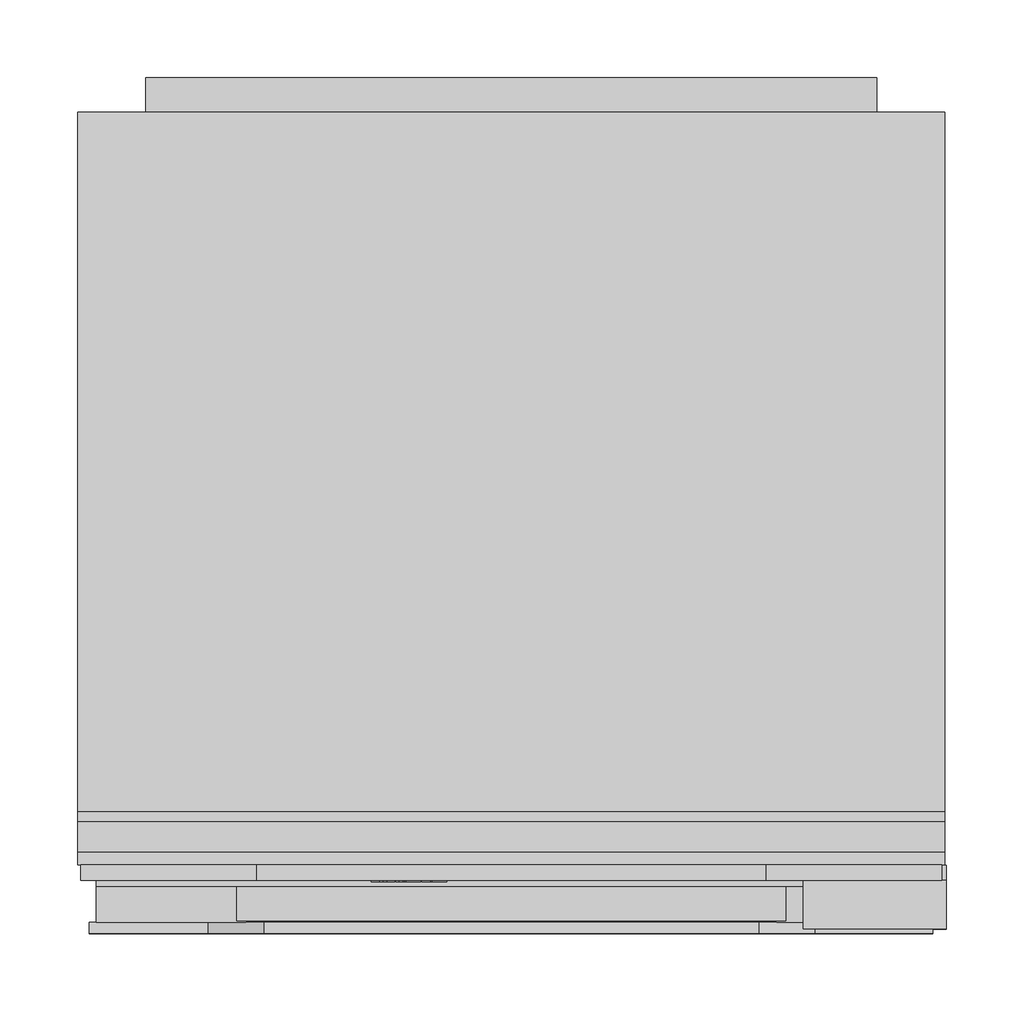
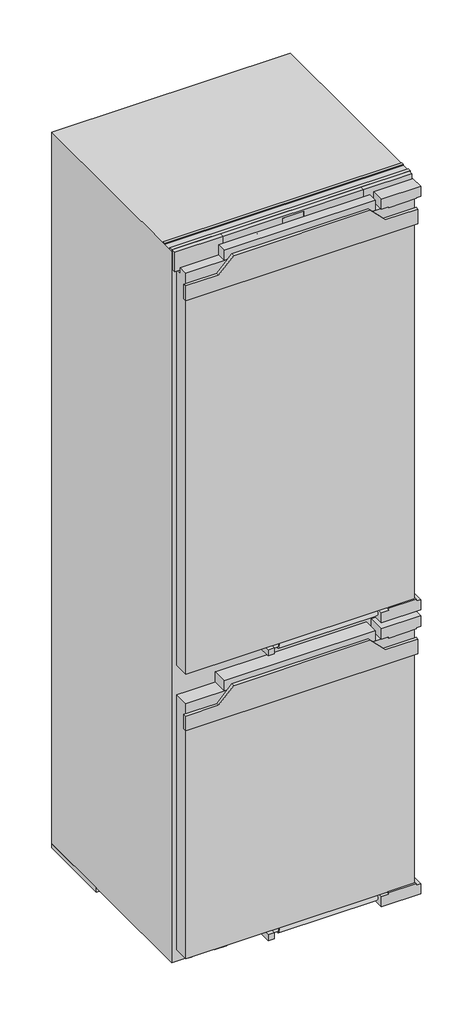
# Not in any storey: 1 proxy.
"""IFC4 building model written with IfcOpenShell, lengths in millimetres."""

import ifcopenshell
import ifcopenshell.guid

model = None  # the IFC model being written
_history = None  # IfcOwnerHistory: only IFC2X3 demands one
_inside = {}  # id of a spatial element -> (the spatial element, [elements in it])
_under = {}  # id of a project, library or spatial element -> (it, [spatial elements below it])
_declared = {}  # id of a project -> (the project, [libraries it declares])
_typed = {}  # id of a type object -> (the type object, [elements of that type])
_made_of = {}  # id of a material, layer set ... -> (it, [elements and type objects made of it])


def new_model(schema):
    """Start an empty IFC model of exactly this schema.

    Asked for "IFC4X3", IfcOpenShell would pick the latest addendum, in which some entities
    have other attributes; the version numbers below select the first issue.
    IFC2X3 requires an IfcOwnerHistory on every rooted entity: one is made here for all.
    """
    global model, _history
    if schema == "IFC4X3":
        model = ifcopenshell.file(schema_version=(4, 3, 0, 0))
    else:
        model = ifcopenshell.file(schema=schema)
    _inside.clear()
    _under.clear()
    _declared.clear()
    _typed.clear()
    _made_of.clear()
    _history = None
    if model.schema == "IFC2X3":
        org = make("IfcOrganization", Name="unknown")
        user = make(
            "IfcPersonAndOrganization",
            ThePerson=make("IfcPerson", FamilyName="unknown"),
            TheOrganization=org,
        )
        app = make(
            "IfcApplication",
            ApplicationDeveloper=org,
            Version="unknown",
            ApplicationFullName="unknown",
            ApplicationIdentifier="unknown",
        )
        _history = make(
            "IfcOwnerHistory",
            OwningUser=user,
            OwningApplication=app,
            ChangeAction="ADDED",
            CreationDate=0,
        )
    return model


def make(cls, **values):
    """One entity of the class cls with the attributes given. An attribute that is None is left unset."""
    return model.create_entity(
        cls, **{name: value for name, value in values.items() if value is not None}
    )


def rooted(cls, **values):
    """An entity with a GlobalId (a new one), such as an element, a storey or a relation."""
    return make(cls, GlobalId=ifcopenshell.guid.new(), OwnerHistory=_history, **values)


def si_unit(unit_type, name, prefix=None):
    """IfcSIUnit, for example si_unit("LENGTHUNIT", "METRE", prefix="MILLI")."""
    return make("IfcSIUnit", UnitType=unit_type, Prefix=prefix, Name=name)


def assignment(units):
    """IfcUnitAssignment: the units of a project."""
    return None if units is None else make("IfcUnitAssignment", Units=units)


def point(xyz):
    """IfcCartesianPoint."""
    return None if xyz is None else make("IfcCartesianPoint", Coordinates=xyz)


def direction(xyz):
    """IfcDirection."""
    return None if xyz is None else make("IfcDirection", DirectionRatios=xyz)


def frame(location, z_axis=None, x_axis=None):
    """IfcAxis2Placement3D, a coordinate frame: its origin and axes. An axis left out is left unset."""
    return make(
        "IfcAxis2Placement3D",
        Location=point(location),
        Axis=direction(z_axis),
        RefDirection=direction(x_axis),
    )


def frame_2d(location, x_axis=None):
    """IfcAxis2Placement2D, a coordinate frame in the plane: its origin and x axis."""
    return make(
        "IfcAxis2Placement2D", Location=point(location), RefDirection=direction(x_axis)
    )


def origin():
    """The frame at (0, 0, 0) with its axes left unset."""
    return frame((0.0, 0.0, 0.0))


def origin_with_axes():
    """The frame at (0, 0, 0) with the z axis (0, 0, 1) and the x axis (1, 0, 0) written out."""
    return frame((0.0, 0.0, 0.0), z_axis=(0.0, 0.0, 1.0), x_axis=(1.0, 0.0, 0.0))


def place(relative_to, where):
    """IfcLocalPlacement: puts the frame where relative to a parent placement (None: the world)."""
    return make(
        "IfcLocalPlacement", PlacementRelTo=relative_to, RelativePlacement=where
    )


def context(
    kind, dimensions, precision=None, world=None, true_north=None, identifier=None
):
    """IfcGeometricRepresentationContext, for example the 3D "Model" context."""
    return make(
        "IfcGeometricRepresentationContext",
        ContextIdentifier=identifier,
        ContextType=kind,
        CoordinateSpaceDimension=dimensions,
        Precision=precision,
        WorldCoordinateSystem=world,
        TrueNorth=true_north,
    )


def project(units=None, contexts=None):
    """IfcProject with its units and contexts."""
    return rooted(
        "IfcProject",
        Name="project",
        RepresentationContexts=contexts,
        UnitsInContext=assignment(units),
    )


def spatial(cls, under=None, at=None, **own):
    """A site, building, storey or space (cls), placed at a placement, below another one or the project."""
    s = rooted(cls, ObjectPlacement=at, **own)
    if under is not None:
        _under.setdefault(under.id(), (under, []))[1].append(s)
    return s


def polyline(points):
    """IfcPolyline through the points."""
    return make("IfcPolyline", Points=[point(p) for p in points])


def circle_curve(where, radius):
    """IfcCircle in the frame where."""
    return make("IfcCircle", Position=where, Radius=radius)


def ellipse_curve(where, semi_axis1, semi_axis2):
    """IfcEllipse in the frame where."""
    return make(
        "IfcEllipse", Position=where, SemiAxis1=semi_axis1, SemiAxis2=semi_axis2
    )


def trimmed(basis, trim1, trim2, sense, master):
    """IfcTrimmedCurve: the piece of a basis curve between two trims."""
    return make(
        "IfcTrimmedCurve",
        BasisCurve=basis,
        Trim1=trim1,
        Trim2=trim2,
        SenseAgreement=sense,
        MasterRepresentation=master,
    )


def segment(curve, same_sense, transition):
    """IfcCompositeCurveSegment."""
    return make(
        "IfcCompositeCurveSegment",
        Transition=transition,
        SameSense=same_sense,
        ParentCurve=curve,
    )


def composite_curve(segments, self_intersect=None):
    """IfcCompositeCurve: segments joined end to end."""
    return make("IfcCompositeCurve", Segments=segments, SelfIntersect=self_intersect)


def outline(outer, holes=None, kind="AREA"):
    """IfcArbitraryClosedProfileDef: a profile drawn as a closed curve; with holes, ...WithVoids."""
    if holes is None:
        return make("IfcArbitraryClosedProfileDef", ProfileType=kind, OuterCurve=outer)
    return make(
        "IfcArbitraryProfileDefWithVoids",
        ProfileType=kind,
        OuterCurve=outer,
        InnerCurves=holes,
    )


def extrude(swept, where, along, depth):
    """IfcExtrudedAreaSolid: the profile swept, set in the frame where, extruded along a direction by depth."""
    return make(
        "IfcExtrudedAreaSolid",
        SweptArea=swept,
        Position=where,
        ExtrudedDirection=direction(along),
        Depth=depth,
    )


def faces_of(points, faces, orient=None, outer=None):
    """IfcFace entities. A face is a list of loops; a loop is a list of indices into points, from 0.

    orient and outer hold one flag for each loop. By default every Orientation is true, the
    first loop of a face is its IfcFaceOuterBound and the others are IfcFaceBound.
    """
    made = []
    for i, loops in enumerate(faces):
        bounds = []
        for j, loop in enumerate(loops):
            is_outer = j == 0 if outer is None else outer[i][j]
            bounds.append(
                make(
                    "IfcFaceOuterBound" if is_outer else "IfcFaceBound",
                    Bound=make("IfcPolyLoop", Polygon=[points[k] for k in loop]),
                    Orientation=True if orient is None else orient[i][j],
                )
            )
        made.append(make("IfcFace", Bounds=bounds))
    return made


def faceted_brep(points, faces, orient=None, outer=None, voids=None):
    """IfcFacetedBrep: a solid bounded by flat faces; with voids (closed shells), ...WithVoids."""
    shared = [point(p) for p in points]
    hull = make("IfcClosedShell", CfsFaces=faces_of(shared, faces, orient, outer))
    if voids is None:
        return make("IfcFacetedBrep", Outer=hull)
    return make(
        "IfcFacetedBrepWithVoids",
        Outer=hull,
        Voids=[
            make(cls, CfsFaces=faces_of(shared, fs, o, b)) for cls, fs, o, b in voids
        ],
    )


def shape(context_of_items, identifier, shape_type, items):
    """IfcShapeRepresentation: the items that make up one representation, for example the "Body"."""
    return make(
        "IfcShapeRepresentation",
        ContextOfItems=context_of_items,
        RepresentationIdentifier=identifier,
        RepresentationType=shape_type,
        Items=items,
    )


def source(mapping_origin, context_of_items, identifier, shape_type, items):
    """IfcRepresentationMap: a shape defined once, which mapped items show again and again."""
    return make(
        "IfcRepresentationMap",
        MappingOrigin=mapping_origin,
        MappedRepresentation=shape(context_of_items, identifier, shape_type, items),
    )


def transform(
    local_origin,
    x_axis=None,
    y_axis=None,
    z_axis=None,
    scale=None,
    scale2=None,
    scale3=None,
    uniform=True,
):
    """IfcCartesianTransformationOperator3D, or its non-uniform kind. x_axis, y_axis, z_axis: its Axis1, 2, 3."""
    if uniform:
        return make(
            "IfcCartesianTransformationOperator3D",
            Axis1=direction(x_axis),
            Axis2=direction(y_axis),
            LocalOrigin=point(local_origin),
            Scale=scale,
            Axis3=direction(z_axis),
        )
    return make(
        "IfcCartesianTransformationOperator3DnonUniform",
        Axis1=direction(x_axis),
        Axis2=direction(y_axis),
        LocalOrigin=point(local_origin),
        Scale=scale,
        Axis3=direction(z_axis),
        Scale2=scale2,
        Scale3=scale3,
    )


def mapped(mapping_source, mapping_target):
    """IfcMappedItem: shows the shape of a source again, moved by a transform."""
    return make(
        "IfcMappedItem", MappingSource=mapping_source, MappingTarget=mapping_target
    )


def made_of(thing, what):
    """Note that an element or type object is made of a material, layer set ...; save() writes the relation."""
    if what is not None:
        _made_of.setdefault(what.id(), (what, []))[1].append(thing)
    return thing


def element(
    cls,
    number,
    at=None,
    inside=None,
    cuts=None,
    type_object=None,
    material=None,
    context=None,
    identifier="Body",
    shape_type=None,
    held_by="IfcProductDefinitionShape",
    body=None,
    shapes=None,
    **own,
):
    """One element of the class cls, such as IfcWall. Its Tag is "e" and its number.

    at: its placement. inside: the storey or other place that contains it. cuts: it is an
    opening in that element (IfcRelVoidsElement). A single representation is given by context,
    identifier, shape_type and body (its items); several are given by shapes. held_by: the class
    of the entity that holds the representations. save() writes the other relations.
    """
    e = rooted(cls, Tag="e%d" % number, ObjectPlacement=at, **own)
    if body is not None:
        shapes = [shape(context, identifier, shape_type, body)]
    if shapes is not None:
        e.Representation = make(held_by, Representations=shapes)
    if inside is not None:
        _inside.setdefault(inside.id(), (inside, []))[1].append(e)
    if cuts is not None:
        rooted(
            "IfcRelVoidsElement", RelatingBuildingElement=cuts, RelatedOpeningElement=e
        )
    if type_object is not None:
        _typed.setdefault(type_object.id(), (type_object, []))[1].append(e)
    return made_of(e, material)


def aggregate(whole, parts):
    """IfcRelAggregates: a whole, such as a stair, and the parts it consists of."""
    return rooted("IfcRelAggregates", RelatingObject=whole, RelatedObjects=parts)


def save(model, path):
    """Write the relations noted so far, then the file.

    IfcRelAggregates (storeys below a building ...), IfcRelContainedInSpatialStructure (elements
    in a storey), IfcRelDefinesByType, IfcRelAssociatesMaterial and IfcRelDeclares: one each for
    every whole, place, type object, material and project.
    """
    for whole, parts in _under.values():
        aggregate(whole, parts)
    for where, things in _inside.values():
        rooted(
            "IfcRelContainedInSpatialStructure",
            RelatedElements=things,
            RelatingStructure=where,
        )
    for kind, things in _typed.values():
        rooted("IfcRelDefinesByType", RelatedObjects=things, RelatingType=kind)
    for what, things in _made_of.values():
        rooted("IfcRelAssociatesMaterial", RelatedObjects=things, RelatingMaterial=what)
    for by, libraries in _declared.values():
        rooted("IfcRelDeclares", RelatingContext=by, RelatedDefinitions=libraries)
    model.write(path)


def plane_surface(at):
    """IfcPlane: the flat surface through the origin of the frame at, square to its z axis."""
    return make("IfcPlane", Position=at)


def cylinder_surface(at, radius):
    """IfcCylindricalSurface: all points at the distance radius from the z axis of the frame at."""
    return make("IfcCylindricalSurface", Position=at, Radius=radius)


def revolved_surface(curve, axis_point, axis_direction):
    """IfcSurfaceOfRevolution: the curve turned about the line through axis_point along axis_direction."""
    return make(
        "IfcSurfaceOfRevolution",
        SweptCurve=make("IfcArbitraryOpenProfileDef", ProfileType="CURVE", Curve=curve),
        AxisPosition=make("IfcAxis1Placement", Location=point(axis_point), Axis=direction(axis_direction)),
    )


def extruded_surface(curve, direction_of_extrusion, depth):
    """IfcSurfaceOfLinearExtrusion: the curve pushed along a direction by depth."""
    return make(
        "IfcSurfaceOfLinearExtrusion",
        SweptCurve=make("IfcArbitraryOpenProfileDef", ProfileType="CURVE", Curve=curve),
        ExtrudedDirection=direction(direction_of_extrusion),
        Depth=depth,
    )


def advanced_brep(points, edges, surfaces, faces):
    """IfcAdvancedBrep: a solid bounded by faces that lie on surfaces and meet in shared edges.

    An edge is (start, end): straight between two places in points (the first is 0);
    or (start, end, curve); or (start, end, curve, False) where it runs against its curve.
    A face is (place in surfaces, loops), or (place, loops, False) where it looks against
    its surface's normal. A loop lists edges by number (the first is 1), with a minus sign
    where the edge is run from its end to its start. The first loop is the outer one.
    """
    corners = [point(p) for p in points]
    vertices = [make("IfcVertexPoint", VertexGeometry=c) for c in corners]
    made = []
    for start, end, *more in edges:
        made.append(
            make(
                "IfcEdgeCurve",
                EdgeStart=vertices[start],
                EdgeEnd=vertices[end],
                EdgeGeometry=more[0] if more else make("IfcPolyline", Points=[corners[start], corners[end]]),
                SameSense=more[1] if len(more) > 1 else True,
            )
        )
    hull = []
    for where, loops, *sense in faces:
        bounds = []
        for j, loop in enumerate(loops):
            ring = [make("IfcOrientedEdge", EdgeElement=made[abs(k) - 1], Orientation=k > 0) for k in loop]
            bounds.append(
                make(
                    "IfcFaceOuterBound" if j == 0 else "IfcFaceBound",
                    Bound=make("IfcEdgeLoop", EdgeList=ring),
                    Orientation=True,
                )
            )
        hull.append(make("IfcAdvancedFace", Bounds=bounds, FaceSurface=surfaces[where], SameSense=sense[0] if sense else True))
    return make("IfcAdvancedBrep", Outer=make("IfcClosedShell", CfsFaces=hull))


def specialty_equipment_5feef6a3(model_context):
    return source(origin(), model_context, "Body", "SolidModel", [
        advanced_brep(
        [(-46.64, 33.0, 1742.896), (-46.64, 33.0, 1743.704), (-41.288, 33.0, 1743.704), (-50.6, 33.0, 1743.704), (-48.4, 33.0, 1741.0), (-41.424, 33.0, 1742.896), (-43.84, 33.0, 1742.896), (-45.744, 33.0, 1742.0), (-46.64, 33.0, 1744.728), (-46.64, 33.0, 1745.6), (-45.272, 33.0, 1745.6), (-45.272, 33.0, 1744.728), (-46.64, 34.0, 1742.896), (-45.744, 34.0, 1742.0), (-43.84, 34.0, 1742.896), (-41.424, 34.0, 1742.896), (-48.4, 34.0, 1741.0), (-50.6, 34.0, 1743.704), (-41.288, 34.0, 1743.704), (-46.64, 34.0, 1743.704), (-46.64, 34.0, 1744.728), (-45.272, 34.0, 1744.728), (-45.272, 34.0, 1745.6), (-46.64, 34.0, 1745.6)],
        [
            (0, 1),
            (1, 2),
            (2, 3, ellipse_curve(frame((-45.944, 33.0, 1743.704), z_axis=(0.0, -1.0, 0.0), x_axis=(-1.0, 0.0, 0.0)), 4.656, 3.848)),
            (3, 4, circle_curve(frame((-47.5039564, 33.0, 1743.976), z_axis=(0.0, -1.0, 0.0), x_axis=(0.0, 0.0, -1.0)), 3.1079688)),
            (4, 5, circle_curve(frame((-46.0372064, 33.0, 1746.088), z_axis=(0.0, -1.0, 0.0), x_axis=(0.0, 0.0, -1.0)), 5.6098607)),
            (5, 6),
            (6, 7, circle_curve(frame((-45.3529412, 33.0, 1743.64), z_axis=(0.0, 1.0, 0.0), x_axis=(0.0, 0.0, -1.0)), 1.6859795)),
            (7, 0, circle_curve(frame((-45.744, 33.0, 1742.896), z_axis=(0.0, 1.0, 0.0), x_axis=(0.0, 0.0, -1.0)), 0.896)),
            (8, 9),
            (9, 10, circle_curve(frame((-45.956, 33.0, 1745.6), z_axis=(0.0, 1.0, 0.0), x_axis=(0.0, 0.0, -1.0)), 0.684)),
            (10, 11),
            (11, 8),
            (12, 13, circle_curve(frame((-45.744, 34.0, 1742.896), z_axis=(0.0, -1.0, 0.0), x_axis=(0.0, 0.0, -1.0)), 0.896)),
            (13, 14, circle_curve(frame((-45.3529412, 34.0, 1743.64), z_axis=(0.0, -1.0, 0.0), x_axis=(0.0, 0.0, -1.0)), 1.6859795)),
            (14, 15),
            (15, 16, circle_curve(frame((-46.0372064, 34.0, 1746.088), z_axis=(0.0, 1.0, 0.0), x_axis=(0.0, 0.0, -1.0)), 5.6098607)),
            (16, 17, circle_curve(frame((-47.5039564, 34.0, 1743.976), z_axis=(0.0, 1.0, 0.0), x_axis=(0.0, 0.0, -1.0)), 3.1079688)),
            (17, 18, ellipse_curve(frame((-45.944, 34.0, 1743.704), z_axis=(0.0, 1.0, 0.0), x_axis=(-1.0, 0.0, 0.0)), 4.656, 3.848)),
            (18, 19),
            (19, 12),
            (20, 21),
            (21, 22),
            (22, 23, circle_curve(frame((-45.956, 34.0, 1745.6), z_axis=(0.0, -1.0, 0.0), x_axis=(0.0, 0.0, -1.0)), 0.684)),
            (23, 20),
            (0, 12),
            (19, 1),
            (18, 2),
            (5, 15),
            (14, 6),
            (17, 3),
            (13, 7),
            (16, 4),
            (8, 20),
            (23, 9),
            (22, 10),
            (21, 11),
        ],
        [
            plane_surface(frame((-46.64, 33.0, 1743.704), z_axis=(0.0, -1.0, 0.0), x_axis=(0.0, 0.0, 1.0))),
            plane_surface(frame((-46.64, 34.0, 1743.704), z_axis=(0.0, 1.0, 0.0), x_axis=(0.0, 0.0, -1.0))),
            plane_surface(frame((-46.64, 33.0, 1742.896), z_axis=(1.0, 0.0, 0.0), x_axis=(0.0, 1.0, 0.0))),
            plane_surface(frame((-46.64, 33.0, 1743.704), z_axis=(0.0, 0.0, -1.0), x_axis=(0.0, 1.0, 0.0))),
            plane_surface(frame((-41.424, 33.0, 1742.896), z_axis=(0.0, 0.0, 1.0), x_axis=(0.0, 1.0, 0.0))),
            extruded_surface(trimmed(ellipse_curve(frame((-45.944, 35.0, 1743.704), z_axis=(0.0, -1.0, 0.0), x_axis=(-1.0, 0.0, 0.0)), 4.656, 3.848), [point((-41.288, 35.0, 1743.704))], [point((-50.6, 35.0, 1743.704))], True, "CARTESIAN"), (0.0, -1.0, 0.0), 1.0),
            revolved_surface(polyline([(-45.3529412, 34.0, 1741.9540205), (-45.3529412, 33.0, 1741.9540205)]), (-45.3529412, 34.0, 1743.64), (0.0, 1.0, 0.0)),
            revolved_surface(polyline([(-45.744, 34.0, 1742.0), (-45.744, 33.0, 1742.0)]), (-45.744, 34.0, 1742.896), (0.0, 1.0, 0.0)),
            cylinder_surface(frame((-47.5039564, 34.0, 1743.976), z_axis=(0.0, -1.0, 0.0), x_axis=(0.0, 0.0, -1.0)), 3.1079688),
            cylinder_surface(frame((-46.0372064, 34.0, 1746.088), z_axis=(0.0, -1.0, 0.0), x_axis=(0.0, 0.0, -1.0)), 5.6098607),
            plane_surface(frame((-46.64, 33.0, 1744.728), z_axis=(1.0, 0.0, 0.0), x_axis=(0.0, 1.0, 0.0))),
            revolved_surface(polyline([(-45.956, 34.0, 1744.916), (-45.956, 33.0, 1744.916)]), (-45.956, 34.0, 1745.6), (0.0, 1.0, 0.0)),
            plane_surface(frame((-45.272, 33.0, 1745.6), z_axis=(-1.0, 0.0, 0.0), x_axis=(0.0, 1.0, 0.0))),
            plane_surface(frame((-45.272, 33.0, 1744.728), z_axis=(0.0, 0.0, 1.0), x_axis=(0.0, 1.0, 0.0))),
        ],
        [
            (0, [[1, 2, 3, 4, 5, 6, 7, 8], [9, 10, 11, 12]]),
            (1, [[13, 14, 15, 16, 17, 18, 19, 20], [21, 22, 23, 24]]),
            (2, [[-1, 25, -20, 26]]),
            (3, [[-2, -26, -19, 27]]),
            (4, [[-6, 28, -15, 29]]),
            (5, [[-3, -27, -18, 30]]),
            (6, [[-7, -29, -14, 31]]),
            (7, [[-8, -31, -13, -25]]),
            (8, [[-4, -30, -17, 32]]),
            (9, [[-5, -32, -16, -28]]),
            (10, [[-9, 33, -24, 34]]),
            (11, [[-10, -34, -23, 35]]),
            (12, [[-11, -35, -22, 36]]),
            (13, [[-12, -36, -21, -33]]),
        ],
    ),
        advanced_brep(
        [(-63.336, 33.0, 1742.896), (-63.336, 33.0, 1743.704), (-57.984, 33.0, 1743.704), (-67.296, 33.0, 1743.704), (-65.096, 33.0, 1741.0), (-58.12, 33.0, 1742.896), (-60.536, 33.0, 1742.896), (-62.44, 33.0, 1742.0), (-63.336, 33.0, 1744.728), (-63.336, 33.0, 1745.6), (-61.968, 33.0, 1745.6), (-61.968, 33.0, 1744.728), (-63.336, 34.0, 1742.896), (-62.44, 34.0, 1742.0), (-60.536, 34.0, 1742.896), (-58.12, 34.0, 1742.896), (-65.096, 34.0, 1741.0), (-67.296, 34.0, 1743.704), (-57.984, 34.0, 1743.704), (-63.336, 34.0, 1743.704), (-63.336, 34.0, 1744.728), (-61.968, 34.0, 1744.728), (-61.968, 34.0, 1745.6), (-63.336, 34.0, 1745.6)],
        [
            (0, 1),
            (1, 2),
            (2, 3, ellipse_curve(frame((-62.64, 33.0, 1743.704), z_axis=(0.0, -1.0, 0.0), x_axis=(-1.0, 0.0, 0.0)), 4.656, 3.848)),
            (3, 4, circle_curve(frame((-64.1999564, 33.0, 1743.976), z_axis=(0.0, -1.0, 0.0), x_axis=(0.0, 0.0, -1.0)), 3.1079688)),
            (4, 5, circle_curve(frame((-62.7332064, 33.0, 1746.088), z_axis=(0.0, -1.0, 0.0), x_axis=(0.0, 0.0, -1.0)), 5.6098607)),
            (5, 6),
            (6, 7, circle_curve(frame((-62.0489412, 33.0, 1743.64), z_axis=(0.0, 1.0, 0.0), x_axis=(0.0, 0.0, -1.0)), 1.6859795)),
            (7, 0, circle_curve(frame((-62.44, 33.0, 1742.896), z_axis=(0.0, 1.0, 0.0), x_axis=(0.0, 0.0, -1.0)), 0.896)),
            (8, 9),
            (9, 10, circle_curve(frame((-62.652, 33.0, 1745.6), z_axis=(0.0, 1.0, 0.0), x_axis=(0.0, 0.0, -1.0)), 0.684)),
            (10, 11),
            (11, 8),
            (12, 13, circle_curve(frame((-62.44, 34.0, 1742.896), z_axis=(0.0, -1.0, 0.0), x_axis=(0.0, 0.0, -1.0)), 0.896)),
            (13, 14, circle_curve(frame((-62.0489412, 34.0, 1743.64), z_axis=(0.0, -1.0, 0.0), x_axis=(0.0, 0.0, -1.0)), 1.6859795)),
            (14, 15),
            (15, 16, circle_curve(frame((-62.7332064, 34.0, 1746.088), z_axis=(0.0, 1.0, 0.0), x_axis=(0.0, 0.0, -1.0)), 5.6098607)),
            (16, 17, circle_curve(frame((-64.1999564, 34.0, 1743.976), z_axis=(0.0, 1.0, 0.0), x_axis=(0.0, 0.0, -1.0)), 3.1079688)),
            (17, 18, ellipse_curve(frame((-62.64, 34.0, 1743.704), z_axis=(0.0, 1.0, 0.0), x_axis=(-1.0, 0.0, 0.0)), 4.656, 3.848)),
            (18, 19),
            (19, 12),
            (20, 21),
            (21, 22),
            (22, 23, circle_curve(frame((-62.652, 34.0, 1745.6), z_axis=(0.0, -1.0, 0.0), x_axis=(0.0, 0.0, -1.0)), 0.684)),
            (23, 20),
            (0, 12),
            (19, 1),
            (18, 2),
            (5, 15),
            (14, 6),
            (17, 3),
            (13, 7),
            (16, 4),
            (8, 20),
            (23, 9),
            (22, 10),
            (21, 11),
        ],
        [
            plane_surface(frame((-63.336, 33.0, 1743.704), z_axis=(0.0, -1.0, 0.0), x_axis=(0.0, 0.0, 1.0))),
            plane_surface(frame((-63.336, 34.0, 1743.704), z_axis=(0.0, 1.0, 0.0), x_axis=(0.0, 0.0, -1.0))),
            plane_surface(frame((-63.336, 33.0, 1742.896), z_axis=(1.0, 0.0, 0.0), x_axis=(0.0, 1.0, 0.0))),
            plane_surface(frame((-63.336, 33.0, 1743.704), z_axis=(0.0, 0.0, -1.0), x_axis=(0.0, 1.0, 0.0))),
            plane_surface(frame((-58.12, 33.0, 1742.896), z_axis=(0.0, 0.0, 1.0), x_axis=(0.0, 1.0, 0.0))),
            extruded_surface(trimmed(ellipse_curve(frame((-62.64, 35.0, 1743.704), z_axis=(0.0, -1.0, 0.0), x_axis=(-1.0, 0.0, 0.0)), 4.656, 3.848), [point((-57.984, 35.0, 1743.704))], [point((-67.296, 35.0, 1743.704))], True, "CARTESIAN"), (0.0, -1.0, 0.0), 1.0),
            revolved_surface(polyline([(-62.0489412, 34.0, 1741.9540205), (-62.0489412, 33.0, 1741.9540205)]), (-62.0489412, 34.0, 1743.64), (0.0, 1.0, 0.0)),
            revolved_surface(polyline([(-62.44, 34.0, 1742.0), (-62.44, 33.0, 1742.0)]), (-62.44, 34.0, 1742.896), (0.0, 1.0, 0.0)),
            cylinder_surface(frame((-64.1999564, 34.0, 1743.976), z_axis=(0.0, -1.0, 0.0), x_axis=(0.0, 0.0, -1.0)), 3.1079688),
            cylinder_surface(frame((-62.7332064, 34.0, 1746.088), z_axis=(0.0, -1.0, 0.0), x_axis=(0.0, 0.0, -1.0)), 5.6098607),
            plane_surface(frame((-63.336, 33.0, 1744.728), z_axis=(1.0, 0.0, 0.0), x_axis=(0.0, 1.0, 0.0))),
            revolved_surface(polyline([(-62.652, 34.0, 1744.916), (-62.652, 33.0, 1744.916)]), (-62.652, 34.0, 1745.6), (0.0, 1.0, 0.0)),
            plane_surface(frame((-61.968, 33.0, 1745.6), z_axis=(-1.0, 0.0, 0.0), x_axis=(0.0, 1.0, 0.0))),
            plane_surface(frame((-61.968, 33.0, 1744.728), z_axis=(0.0, 0.0, 1.0), x_axis=(0.0, 1.0, 0.0))),
        ],
        [
            (0, [[1, 2, 3, 4, 5, 6, 7, 8], [9, 10, 11, 12]]),
            (1, [[13, 14, 15, 16, 17, 18, 19, 20], [21, 22, 23, 24]]),
            (2, [[-1, 25, -20, 26]]),
            (3, [[-2, -26, -19, 27]]),
            (4, [[-6, 28, -15, 29]]),
            (5, [[-3, -27, -18, 30]]),
            (6, [[-7, -29, -14, 31]]),
            (7, [[-8, -31, -13, -25]]),
            (8, [[-4, -30, -17, 32]]),
            (9, [[-5, -32, -16, -28]]),
            (10, [[-9, 33, -24, 34]]),
            (11, [[-10, -34, -23, 35]]),
            (12, [[-11, -35, -22, 36]]),
            (13, [[-12, -36, -21, -33]]),
        ],
    ),
        extrude(outline(polyline([(1748.528, -72.08), (1747.232, -71.472), (1748.496, -68.76), (1749.792, -69.36), (1748.528, -72.08)])), frame((0.0, 33.0, 0.0), z_axis=(0.0, 1.0, 0.0), x_axis=(0.0, 0.0, 1.0)), (0.0, 0.0, 1.0), 1.0),
        extrude(outline(polyline([(1747.056, -74.056), (1745.624, -74.056), (1745.624, -73.104), (1742.344, -73.104), (1742.344, -74.056), (1741.0, -74.056), (1741.0, -67.744), (1742.344, -67.744), (1742.344, -68.672), (1747.056, -68.672), (1747.056, -74.056)])), frame((0.0, 33.0, 0.0), z_axis=(0.0, 1.0, 0.0), x_axis=(0.0, 0.0, 1.0)), (0.0, 0.0, 1.0), 1.0),
        extrude(outline(polyline([(1747.696, -57.536), (1747.696, -56.576), (1742.344, -56.576), (1742.344, -57.536), (1741.0, -57.536), (1741.0, -51.048), (1742.344, -51.048), (1742.344, -52.032), (1749.0, -52.032), (1749.0, -57.536), (1747.696, -57.536)])), frame((0.0, 33.0, 0.0), z_axis=(0.0, 1.0, 0.0), x_axis=(0.0, 0.0, 1.0)), (0.0, 0.0, 1.0), 1.0),
        extrude(outline(polyline([(1747.696, -90.0), (1747.696, -89.032), (1742.344, -89.032), (1742.344, -90.0), (1741.0, -90.0), (1741.0, -86.48), (1742.344, -86.48), (1742.344, -87.44), (1745.7471247, -87.44), (1741.0, -83.864), (1745.8152223, -80.272), (1742.344, -80.272), (1742.344, -81.256), (1741.0, -81.256), (1741.0, -74.872), (1742.344, -74.872), (1742.344, -75.888), (1747.696, -75.888), (1747.696, -74.872), (1749.0, -74.872), (1749.0, -79.744), (1746.0, -82.08), (1749.0, -84.424), (1749.0, -90.0), (1747.696, -90.0)])), frame((0.0, 33.0, 0.0), z_axis=(0.0, 1.0, 0.0), x_axis=(0.0, 0.0, 1.0)), (0.0, 0.0, 1.0), 1.0),
        extrude(outline(polyline([(607.0, 271.0), (643.0, 271.0), (643.0, 195.0), (679.0, 159.0), (679.0, -159.0), (643.0, -195.0), (643.0, -271.0), (607.0, -271.0), (607.0, 271.0)])), frame((0.0, 0.0, 0.0), z_axis=(0.0, 1.0, 0.0), x_axis=(0.0, 0.0, 1.0)), (0.0, 0.0, 1.0), 7.0),
        extrude(outline(polyline([(1669.0, 271.0), (1705.0, 271.0), (1705.0, 195.0), (1741.0, 159.0), (1741.0, -159.0), (1705.0, -195.0), (1705.0, -271.0), (1669.0, -271.0), (1669.0, 271.0)])), frame((0.0, 0.0, 0.0), z_axis=(0.0, 1.0, 0.0), x_axis=(0.0, 0.0, 1.0)), (0.0, 0.0, 1.0), 7.0),
        extrude(outline(composite_curve([segment(trimmed(circle_curve(frame_2d((-65.5, 25.0)), 6.5), [point((-72.0, 25.0))], [point((-59.0, 25.0))], False, "CARTESIAN"), True, "CONTINUOUS"), segment(trimmed(circle_curve(frame_2d((-65.5, 25.0)), 6.5), [point((-59.0, 25.0))], [point((-72.0, 25.0))], False, "CARTESIAN"), True, "CONTINUOUS")], self_intersect=False)), frame((0.0, 0.0, 732.0), z_axis=(0.0, 0.0, 1.0), x_axis=(1.0, 0.0, 0.0)), (0.0, 0.0, 1.0), 8.0),
        extrude(outline(polyline([(-74.0, 42.0), (-59.0, 42.0), (-59.0, 8.0), (-74.0, 8.0), (-74.0, 42.0)])), frame((0.0, 0.0, 717.3963013), z_axis=(0.0, 0.0, 1.0), x_axis=(1.0, 0.0, 0.0)), (0.0, 0.0, 1.0), 14.6036987),
        extrude(outline(composite_curve([segment(trimmed(circle_curve(frame_2d((-65.5, 25.0)), 6.5), [point((-72.0, 25.0))], [point((-59.0, 25.0))], False, "CARTESIAN"), True, "CONTINUOUS"), segment(trimmed(circle_curve(frame_2d((-65.5, 25.0)), 6.5), [point((-59.0, 25.0))], [point((-72.0, 25.0))], False, "CARTESIAN"), True, "CONTINUOUS")], self_intersect=False)), frame((0.0, 0.0, 29.0), z_axis=(0.0, 0.0, 1.0), x_axis=(1.0, 0.0, 0.0)), (0.0, 0.0, 1.0), 9.0),
        extrude(outline(polyline([(-74.0, 42.0), (-59.0, 42.0), (-59.0, 8.0), (-74.0, 8.0), (-74.0, 42.0)])), frame((0.0, 0.0, 14.3963013), z_axis=(0.0, 0.0, 1.0), x_axis=(1.0, 0.0, 0.0)), (0.0, 0.0, 1.0), 14.6036987),
        extrude(outline(polyline([(736.0, 205.5), (736.0, 187.5), (711.0, 187.5), (711.0, 279.5), (736.0, 279.5), (736.0, 269.5), (740.0, 269.5), (740.0, 205.5), (736.0, 205.5)])), frame((0.0, 3.0, 0.0), z_axis=(0.0, 1.0, 0.0), x_axis=(0.0, 0.0, 1.0)), (0.0, 0.0, 1.0), 41.0),
        extrude(outline(polyline([(176.5, 8.0), (-176.5, 8.0), (-176.5, 30.0), (176.5, 30.0), (176.5, 8.0)])), frame((0.0, 0.0, 1730.0), z_axis=(0.0, 0.0, 1.0), x_axis=(1.0, 0.0, 0.0)), (0.0, 0.0, 1.0), 25.0),
        extrude(outline(polyline([(7.0, 740.0), (7.0, 1730.0), (30.0, 1730.0), (30.0, 1715.0), (44.0, 1715.0), (44.0, 740.0), (7.0, 740.0)])), frame((-266.5, 0.0, 0.0), z_axis=(1.0, 0.0, 0.0), x_axis=(0.0, 1.0, 0.0)), (0.0, 0.0, 1.0), 533.0),
        extrude(outline(polyline([(-176.5, 44.0), (176.5, 44.0), (176.5, 8.0), (-176.5, 8.0), (-176.5, 44.0)])), frame((0.0, 0.0, 667.0), z_axis=(0.0, 0.0, 1.0), x_axis=(1.0, 0.0, 0.0)), (0.0, 0.0, 1.0), 25.0),
        extrude(outline(polyline([(696.0, 279.5), (696.0, 187.5), (670.0, 187.5), (670.0, 205.5), (667.0, 205.5), (667.0, 269.5), (670.0, 269.5), (670.0, 279.5), (696.0, 279.5)])), frame((0.0, 3.0, 0.0), z_axis=(0.0, 1.0, 0.0), x_axis=(0.0, 0.0, 1.0)), (0.0, 0.0, 1.0), 41.0),
        extrude(outline(polyline([(34.0, 205.5), (34.0, 187.5), (10.0, 187.5), (10.0, 279.5), (34.0, 279.5), (34.0, 269.5), (38.0, 269.5), (38.0, 205.5), (34.0, 205.5)])), frame((0.0, 3.0, 0.0), z_axis=(0.0, 1.0, 0.0), x_axis=(0.0, 0.0, 1.0)), (0.0, 0.0, 1.0), 41.0),
        extrude(outline(polyline([(1732.0, 269.5), (1732.0, 279.5), (1757.0, 279.5), (1757.0, 187.5), (1732.0, 187.5), (1732.0, 205.5), (1730.0, 205.5), (1730.0, 269.5), (1732.0, 269.5)])), frame((0.0, 3.0, 0.0), z_axis=(0.0, 1.0, 0.0), x_axis=(0.0, 0.0, 1.0)), (0.0, 0.0, 1.0), 31.0),
        extrude(outline(polyline([(-266.5, 44.0), (266.5, 44.0), (266.5, 7.0), (-266.5, 7.0), (-266.5, 44.0)])), frame((0.0, 0.0, 38.0), z_axis=(0.0, 0.0, 1.0), x_axis=(1.0, 0.0, 0.0)), (0.0, 0.0, 1.0), 629.0),
        extrude(outline(composite_curve([segment(trimmed(circle_curve(frame_2d((25.0, 726.0)), 6.0), [point((25.0, 720.0))], [point((25.0, 732.0))], False, "CARTESIAN"), True, "CONTINUOUS"), segment(trimmed(circle_curve(frame_2d((25.0, 726.0)), 6.0), [point((25.0, 732.0))], [point((25.0, 720.0))], False, "CARTESIAN"), True, "CONTINUOUS")], self_intersect=False)), frame((-59.0, 0.0, 0.0), z_axis=(1.0, 0.0, 0.0), x_axis=(0.0, 1.0, 0.0)), (0.0, 0.0, 1.0), 16.0),
        extrude(outline(composite_curve([segment(trimmed(circle_curve(frame_2d((25.0, 726.0)), 9.0), [point((25.0, 717.0))], [point((25.0, 735.0))], False, "CARTESIAN"), True, "CONTINUOUS"), segment(trimmed(circle_curve(frame_2d((25.0, 726.0)), 9.0), [point((25.0, 735.0))], [point((25.0, 717.0))], False, "CARTESIAN"), True, "CONTINUOUS")], self_intersect=False)), frame((-43.0, 0.0, 0.0), z_axis=(1.0, 0.0, 0.0), x_axis=(0.0, 1.0, 0.0)), (0.0, 0.0, 1.0), 230.5),
        extrude(outline(composite_curve([segment(trimmed(circle_curve(frame_2d((25.0, 23.0)), 9.0), [point((25.0, 14.0))], [point((25.0, 32.0))], False, "CARTESIAN"), True, "CONTINUOUS"), segment(trimmed(circle_curve(frame_2d((25.0, 23.0)), 9.0), [point((25.0, 32.0))], [point((25.0, 14.0))], False, "CARTESIAN"), True, "CONTINUOUS")], self_intersect=False)), frame((-43.0, 0.0, 0.0), z_axis=(1.0, 0.0, 0.0), x_axis=(0.0, 1.0, 0.0)), (0.0, 0.0, 1.0), 230.5),
        extrude(outline(composite_curve([segment(trimmed(circle_curve(frame_2d((25.0, 23.0)), 6.0), [point((25.0, 17.0))], [point((25.0, 29.0))], False, "CARTESIAN"), True, "CONTINUOUS"), segment(trimmed(circle_curve(frame_2d((25.0, 23.0)), 6.0), [point((25.0, 29.0))], [point((25.0, 17.0))], False, "CARTESIAN"), True, "CONTINUOUS")], self_intersect=False)), frame((-59.0, 0.0, 0.0), z_axis=(1.0, 0.0, 0.0), x_axis=(0.0, 1.0, 0.0)), (0.0, 0.0, 1.0), 16.0),
        faceted_brep([(163.5, 34.0, 1770.0), (-163.5, 34.0, 1770.0), (-163.5, 34.0, 1721.0), (163.5, 34.0, 1721.0), (24.5, 34.0, 1765.0), (24.5, 34.0, 1727.0), (-24.5, 34.0, 1727.0), (-24.5, 34.0, 1765.0), (163.5, 44.0, 1770.0), (163.5, 44.0, 1721.0), (-163.5, 44.0, 1721.0), (-163.5, 44.0, 1770.0), (24.5, 35.0, 1765.0), (-24.5, 35.0, 1765.0), (-24.5, 35.0, 1727.0), (24.5, 35.0, 1727.0)], [[[0, 1, 2, 3], [4, 5, 6, 7]], [[8, 9, 10, 11]], [[0, 3, 9, 8]], [[3, 2, 10, 9]], [[2, 1, 11, 10]], [[1, 0, 8, 11]], [[12, 13, 14, 15]], [[12, 15, 5, 4]], [[15, 14, 6, 5]], [[14, 13, 7, 6]], [[13, 12, 4, 7]]]),
        extrude(outline(polyline([(163.5, 44.0), (276.5, 44.0), (276.5, 34.0), (163.5, 34.0), (163.5, 44.0)])), frame((0.0, 0.0, 1721.0), z_axis=(0.0, 0.0, 1.0), x_axis=(1.0, 0.0, 0.0)), (0.0, 0.0, 1.0), 49.0),
        extrude(outline(polyline([(-276.5, 44.0), (-163.5, 44.0), (-163.5, 34.0), (-276.5, 34.0), (-276.5, 44.0)])), frame((0.0, 0.0, 1721.0), z_axis=(0.0, 0.0, 1.0), x_axis=(1.0, 0.0, 0.0)), (0.0, 0.0, 1.0), 49.0),
        extrude(outline(polyline([(-24.5, 35.0), (24.5, 35.0), (24.5, 34.0), (-24.5, 34.0), (-24.5, 35.0)])), frame((0.0, 0.0, 1727.0), z_axis=(0.0, 0.0, 1.0), x_axis=(1.0, 0.0, 0.0)), (0.0, 0.0, 1.0), 38.0),
        extrude(outline(polyline([(1647.0, -235.0), (27.0, -235.0), (27.0, 235.0), (130.0, 235.0), (130.0, 180.0), (160.0, 180.0), (160.0, 235.0), (1647.0, 235.0), (1647.0, -235.0)])), frame((0.0, 528.0, 0.0), z_axis=(0.0, 1.0, 0.0), x_axis=(0.0, 0.0, 1.0)), (0.0, 0.0, 1.0), 22.0),
        extrude(outline(polyline([(-144.929185, 52.0), (-174.0, 52.0), (-194.6983363, 348.0), (-165.6275213, 348.0), (-144.929185, 52.0)])), origin_with_axes(), (0.0, 0.0, 1.0), 10.0),
        extrude(outline(polyline([(144.929185, 52.0), (165.6275213, 348.0), (194.6983363, 348.0), (174.0, 52.0), (144.929185, 52.0)])), origin_with_axes(), (0.0, 0.0, 1.0), 10.0),
        extrude(outline(polyline([(541.4384039, 149.874164), (548.6647626, 149.874164), (548.6647626, 139.824714), (541.2826236, 139.824714), (541.2826236, 141.0836119), (547.4056247, 141.0836119), (547.4056247, 144.3750411), (541.7614845, 144.3750411), (541.7614845, 145.6249589), (547.4056247, 145.6249589), (547.4056247, 148.6148402), (541.4384039, 148.6148402), (541.4384039, 149.874164)])), frame((193.5, 0.0, 0.0), z_axis=(1.0, 0.0, 0.0), x_axis=(0.0, 1.0, 0.0)), (0.0, 0.0, 1.0), 1.0),
        extrude(outline(polyline([(538.1383052, 149.8716162), (539.399354, 149.8716162), (539.399354, 139.824714), (533.1225656, 139.824714), (533.1225656, 141.0927041), (538.1383052, 141.0927041), (538.1383052, 149.8716162)])), frame((193.5, 0.0, 0.0), z_axis=(1.0, 0.0, 0.0), x_axis=(0.0, 1.0, 0.0)), (0.0, 0.0, 1.0), 1.0),
        advanced_brep(
        [(232.0, 528.0, 145.0), (217.0, 528.0, 145.0), (232.0, 549.5, 145.0), (217.0, 534.5, 145.0), (194.5, 549.5, 145.0), (194.5, 534.5, 145.0)],
        [
            (0, 1, circle_curve(frame((224.5, 528.0, 145.0), z_axis=(0.0, -1.0, 0.0), x_axis=(-1.0, 0.0, 0.0)), 7.5)),
            (1, 0, circle_curve(frame((224.5, 528.0, 145.0), z_axis=(0.0, -1.0, 0.0), x_axis=(-1.0, 0.0, 0.0)), 7.5)),
            (0, 2),
            (2, 3, ellipse_curve(frame((224.5, 542.0, 145.0), z_axis=(0.7071067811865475, -0.7071067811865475, 0.0), x_axis=(-0.7071067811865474, -0.7071067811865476, 0.0)), 10.6066017, 7.5)),
            (3, 1),
            (3, 2, ellipse_curve(frame((224.5, 542.0, 145.0), z_axis=(0.7071067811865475, -0.7071067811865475, 0.0), x_axis=(-0.7071067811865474, -0.7071067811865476, 0.0)), 10.6066017, 7.5)),
            (4, 5, circle_curve(frame((194.5, 542.0, 145.0), z_axis=(-1.0, 0.0, 0.0), x_axis=(0.0, -1.0, 0.0)), 7.5)),
            (5, 4, circle_curve(frame((194.5, 542.0, 145.0), z_axis=(-1.0, 0.0, 0.0), x_axis=(0.0, -1.0, 0.0)), 7.5)),
            (2, 4),
            (5, 3),
        ],
        [
            plane_surface(frame((224.5, 528.0, 145.0), z_axis=(0.0, -1.0, 0.0), x_axis=(0.0, 0.0, 1.0))),
            cylinder_surface(frame((224.5, 528.0, 145.0), z_axis=(0.0, -1.0, 0.0), x_axis=(-1.0, 0.0, 0.0)), 7.5),
            plane_surface(frame((194.5, 542.0, 145.0), z_axis=(-1.0, 0.0, 0.0), x_axis=(0.0, 0.0, 1.0))),
            cylinder_surface(frame((224.5, 542.0, 145.0), z_axis=(1.0, 0.0, 0.0), x_axis=(0.0, -1.0, 0.0)), 7.5),
        ],
        [
            (0, [[1, 2]]),
            (1, [[-1, 3, 4, 5]]),
            (1, [[-2, -5, 6, -3]]),
            (2, [[7, 8]]),
            (3, [[-4, 9, -8, 10]]),
            (3, [[-6, -10, -7, -9]]),
        ],
    ),
        extrude(outline(polyline([(-34.0, 44.0), (34.0, 44.0), (34.0, 35.0), (-34.0, 35.0), (-34.0, 44.0)])), frame((0.0, 0.0, 13.0), z_axis=(0.0, 0.0, 1.0), x_axis=(1.0, 0.0, 0.0)), (0.0, 0.0, 1.0), 19.0),
        extrude(outline(polyline([(278.5, 52.0), (278.5, 44.0), (-278.5, 44.0), (-278.5, 52.0), (278.5, 52.0)])), frame((0.0, 0.0, 1767.0), z_axis=(0.0, 0.0, 1.0), x_axis=(1.0, 0.0, 0.0)), (0.0, 0.0, 1.0), 3.0),
        extrude(outline(polyline([(278.5, 78.0), (278.5, 72.0), (-278.5, 72.0), (-278.5, 78.0), (278.5, 78.0)])), frame((0.0, 0.0, 1767.0), z_axis=(0.0, 0.0, 1.0), x_axis=(1.0, 0.0, 0.0)), (0.0, 0.0, 1.0), 3.0),
        extrude(outline(polyline([(-242.5, 44.0), (-242.5, 490.0), (242.5, 490.0), (242.5, 44.0), (-242.5, 44.0)])), frame((0.0, 0.0, 1142.0), z_axis=(0.0, 0.0, 1.0), x_axis=(1.0, 0.0, 0.0)), (0.0, 0.0, 1.0), 3.0),
        extrude(outline(polyline([(-217.5, 312.0), (-217.5, 451.0), (217.5, 451.0), (217.5, 312.0), (-217.5, 312.0)])), frame((0.0, 0.0, 93.0), z_axis=(0.0, 0.0, 1.0), x_axis=(1.0, 0.0, 0.0)), (0.0, 0.0, 1.0), 181.0),
        extrude(outline(composite_curve([segment(trimmed(circle_curve(frame_2d((228.0, 64.0)), 11.0), [point((239.0, 64.0))], [point((217.0, 64.0))], False, "CARTESIAN"), True, "CONTINUOUS"), segment(trimmed(circle_curve(frame_2d((228.0, 64.0)), 11.0), [point((217.0, 64.0))], [point((239.0, 64.0))], False, "CARTESIAN"), True, "CONTINUOUS")], self_intersect=False)), origin_with_axes(), (0.0, 0.0, 1.0), 10.0),
        extrude(outline(composite_curve([segment(trimmed(circle_curve(frame_2d((-228.0, 64.0)), 11.0), [point((-217.0, 64.0))], [point((-239.0, 64.0))], False, "CARTESIAN"), True, "CONTINUOUS"), segment(trimmed(circle_curve(frame_2d((-228.0, 64.0)), 11.0), [point((-239.0, 64.0))], [point((-217.0, 64.0))], False, "CARTESIAN"), True, "CONTINUOUS")], self_intersect=False)), origin_with_axes(), (0.0, 0.0, 1.0), 10.0),
        extrude(outline(polyline([(278.5, 528.0), (278.5, 348.0), (-278.5, 348.0), (-278.5, 528.0), (278.5, 528.0)])), origin_with_axes(), (0.0, 0.0, 1.0), 10.0),
        faceted_brep([(278.5, 528.0, 1767.0), (-278.5, 528.0, 1767.0), (-278.5, 44.0, 1767.0), (278.5, 44.0, 1767.0), (278.5, 528.0, 10.0), (278.5, 44.0, 10.0), (-278.5, 44.0, 10.0), (-278.5, 528.0, 10.0), (242.5, 44.0, 1692.0), (242.5, 44.0, 765.0), (-242.5, 44.0, 765.0), (-242.5, 44.0, 1692.0), (217.5, 44.0, 633.0), (217.5, 44.0, 93.0), (-217.5, 44.0, 93.0), (-217.5, 44.0, 633.0), (242.5, 490.0, 1692.0), (-242.5, 490.0, 1692.0), (-242.5, 490.0, 765.0), (242.5, 490.0, 765.0), (217.5, 451.0, 633.0), (217.5, 451.0, 93.0), (-217.5, 451.0, 633.0), (-217.5, 451.0, 93.0)], [[[0, 1, 2, 3]], [[4, 5, 6, 7]], [[1, 0, 4, 7]], [[2, 1, 7, 6]], [[3, 2, 6, 5], [8, 9, 10, 11], [12, 13, 14, 15]], [[0, 3, 5, 4]], [[16, 17, 18, 19]], [[16, 19, 9, 8]], [[19, 18, 10, 9]], [[18, 17, 11, 10]], [[17, 16, 8, 11]], [[20, 21, 13, 12]], [[22, 15, 14, 23]], [[21, 20, 22, 23]], [[13, 21, 23, 14]], [[20, 12, 15, 22]]]),
    ])


model = new_model("IFC4")

# Units and contexts
model_context = context("Model", 3, world=origin())
ifc_project = project(units=[si_unit("LENGTHUNIT", "METRE", prefix="MILLI")], contexts=[model_context])

# Site, building
site = spatial("IfcSite", under=ifc_project)
building = spatial("IfcBuilding", under=site)

# Proxy
placement = place(None, origin())
specialty_equipment_shape = specialty_equipment_5feef6a3(model_context)
element("IfcBuildingElementProxy", 1, Name="12539790_OER_KFN7795C : 38779505_OER_12539790_KFN7795C", ObjectType="12539790_OER_KFN7795C : 38779505_OER_12539790_KFN7795C", at=placement, inside=building, context=model_context, shape_type="MappedRepresentation", body=[
    mapped(specialty_equipment_shape, transform((0.0, 0.0, 0.0), x_axis=(1.0, 0.0, 0.0), y_axis=(0.0, 1.0, 0.0), z_axis=(0.0, 0.0, 1.0))),
])

save(model, "model.ifc")
